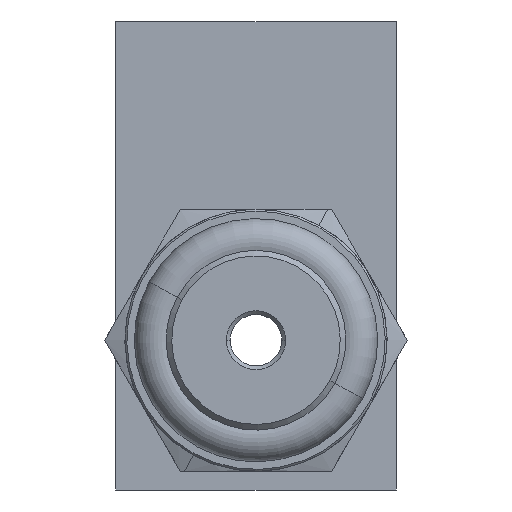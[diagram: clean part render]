
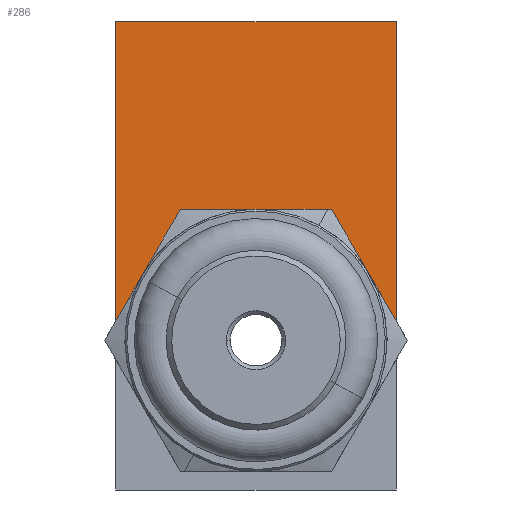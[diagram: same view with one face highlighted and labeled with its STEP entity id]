
A CAD part, front view. The second image highlights one B-rep face of the part: STEP entity #286.
In plain terms, the highlighted planar face has unit normal (0, -1, 0).
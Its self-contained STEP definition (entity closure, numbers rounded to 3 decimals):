
#97=CARTESIAN_POINT('Line Origine',(7.5,31.5,9.005)) ;
#101=CARTESIAN_POINT('Vertex',(7.5,31.5,17.)) ;
#103=CARTESIAN_POINT('Vertex',(7.5,31.5,1.01)) ;
#190=CARTESIAN_POINT('Vertex',(-7.5,31.5,17.)) ;
#204=CARTESIAN_POINT('Vertex',(-7.5,31.5,1.01)) ;
#207=CARTESIAN_POINT('Line Origine',(-7.5,31.5,9.005)) ;
#221=CARTESIAN_POINT('Axis2P3D Location',(0.,31.5,17.)) ;
#254=CARTESIAN_POINT('Line Origine',(0.,31.5,17.)) ;
#259=CARTESIAN_POINT('Line Origine',(-5.771,31.5,4.005)) ;
#263=CARTESIAN_POINT('Vertex',(-4.041,31.5,7.)) ;
#266=CARTESIAN_POINT('Line Origine',(0.,31.5,7.)) ;
#270=CARTESIAN_POINT('Vertex',(4.041,31.5,7.)) ;
#273=CARTESIAN_POINT('Line Origine',(5.771,31.5,4.005)) ;
#98=DIRECTION('Vector Direction',(0.,0.,-1.)) ;
#208=DIRECTION('Vector Direction',(0.,0.,-1.)) ;
#222=DIRECTION('Axis2P3D Direction',(0.,-1.,0.)) ;
#223=DIRECTION('Axis2P3D XDirection',(0.,0.,-1.)) ;
#255=DIRECTION('Vector Direction',(1.,0.,0.)) ;
#260=DIRECTION('Vector Direction',(0.5,0.,0.866)) ;
#267=DIRECTION('Vector Direction',(1.,0.,0.)) ;
#274=DIRECTION('Vector Direction',(0.5,0.,-0.866)) ;
#224=AXIS2_PLACEMENT_3D('Plane Axis2P3D',#221,#222,#223) ;
#279=ORIENTED_EDGE('',*,*,#105,.F.) ;
#280=ORIENTED_EDGE('',*,*,#258,.F.) ;
#281=ORIENTED_EDGE('',*,*,#211,.T.) ;
#282=ORIENTED_EDGE('',*,*,#265,.T.) ;
#283=ORIENTED_EDGE('',*,*,#272,.T.) ;
#284=ORIENTED_EDGE('',*,*,#277,.T.) ;
#99=VECTOR('Line Direction',#98,1.) ;
#209=VECTOR('Line Direction',#208,1.) ;
#256=VECTOR('Line Direction',#255,1.) ;
#261=VECTOR('Line Direction',#260,1.) ;
#268=VECTOR('Line Direction',#267,1.) ;
#275=VECTOR('Line Direction',#274,1.) ;
#286=ADVANCED_FACE('',(#285),#225,.T.) ;
#105=EDGE_CURVE('',#102,#104,#100,.T.) ;
#211=EDGE_CURVE('',#191,#205,#210,.T.) ;
#258=EDGE_CURVE('',#191,#102,#257,.T.) ;
#265=EDGE_CURVE('',#205,#264,#262,.T.) ;
#272=EDGE_CURVE('',#264,#271,#269,.T.) ;
#277=EDGE_CURVE('',#271,#104,#276,.T.) ;
#278=EDGE_LOOP('',(#279,#280,#281,#282,#283,#284)) ;
#285=FACE_OUTER_BOUND('',#278,.T.) ;
#100=LINE('Line',#97,#99) ;
#210=LINE('Line',#207,#209) ;
#257=LINE('Line',#254,#256) ;
#262=LINE('Line',#259,#261) ;
#269=LINE('Line',#266,#268) ;
#276=LINE('Line',#273,#275) ;
#225=PLANE('Plane',#224) ;
#102=VERTEX_POINT('',#101) ;
#104=VERTEX_POINT('',#103) ;
#191=VERTEX_POINT('',#190) ;
#205=VERTEX_POINT('',#204) ;
#264=VERTEX_POINT('',#263) ;
#271=VERTEX_POINT('',#270) ;
